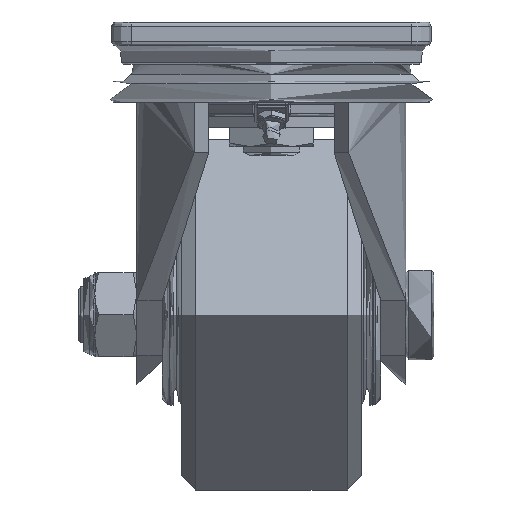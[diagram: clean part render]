
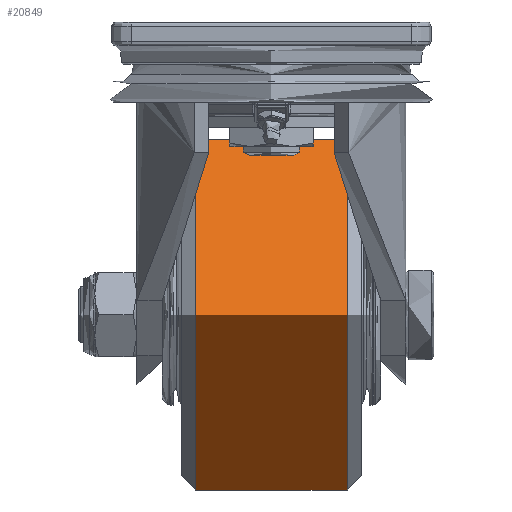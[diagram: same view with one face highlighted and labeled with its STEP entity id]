
A CAD part, left-side view. The second image highlights one B-rep face of the part: STEP entity #20849.
In plain terms, the highlighted cylindrical face has radius 62.5 mm (diameter 125 mm), a full revolution.
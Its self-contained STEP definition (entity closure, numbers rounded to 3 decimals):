
#4509=CYLINDRICAL_SURFACE('',#22144,62.5);
#5278=FACE_BOUND('',#6735,.T.);
#5469=FACE_OUTER_BOUND('',#6734,.T.);
#6734=EDGE_LOOP('',(#14299));
#6735=EDGE_LOOP('',(#14300));
#8177=CIRCLE('',#22143,62.5);
#8178=CIRCLE('',#22145,62.5);
#8938=VERTEX_POINT('',#28511);
#8939=VERTEX_POINT('',#28514);
#11046=EDGE_CURVE('',#8938,#8938,#8177,.T.);
#11047=EDGE_CURVE('',#8939,#8939,#8178,.T.);
#14299=ORIENTED_EDGE('',*,*,#11046,.T.);
#14300=ORIENTED_EDGE('',*,*,#11047,.F.);
#20849=ADVANCED_FACE('',(#5469,#5278),#4509,.T.);
#22143=AXIS2_PLACEMENT_3D('',#28512,#23758,#23759);
#22144=AXIS2_PLACEMENT_3D('',#28513,#23760,#23761);
#22145=AXIS2_PLACEMENT_3D('',#28515,#23762,#23763);
#23758=DIRECTION('center_axis',(0.,-1.,0.));
#23759=DIRECTION('ref_axis',(1.,0.,0.));
#23760=DIRECTION('center_axis',(0.,-1.,0.));
#23761=DIRECTION('ref_axis',(0.,0.,-1.));
#23762=DIRECTION('center_axis',(0.,-1.,0.));
#23763=DIRECTION('ref_axis',(1.,0.,0.));
#28511=CARTESIAN_POINT('',(44.195,27.,-137.));
#28512=CARTESIAN_POINT('Origin',(44.195,27.,-74.5));
#28513=CARTESIAN_POINT('Origin',(44.195,0.,
-74.5));
#28514=CARTESIAN_POINT('',(44.195,-27.,-137.));
#28515=CARTESIAN_POINT('Origin',(44.195,-27.,-74.5));
